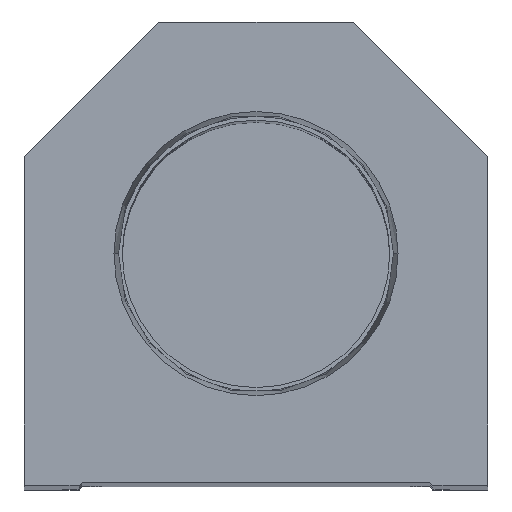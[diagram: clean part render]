
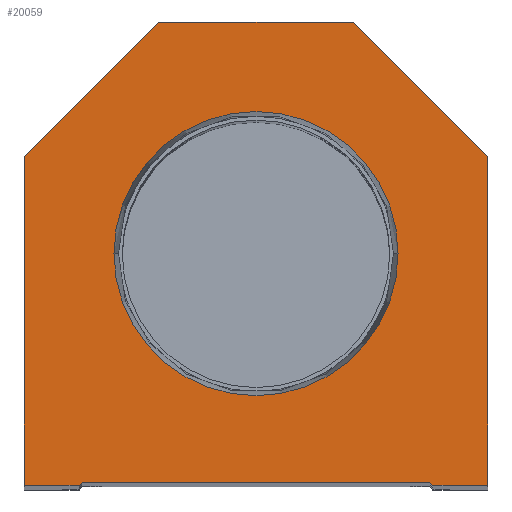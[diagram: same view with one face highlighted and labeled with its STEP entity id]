
A CAD part, top view. The second image highlights one B-rep face of the part: STEP entity #20059.
In plain terms, the highlighted planar face has unit normal (0, 0, 1).
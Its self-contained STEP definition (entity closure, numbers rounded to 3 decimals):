
#228 = DIRECTION ( 'NONE',  ( 0., -1., 0. ) ) ;
#269 = CARTESIAN_POINT ( 'NONE',  ( -23.374, 38.1, 0. ) ) ;
#346 = CARTESIAN_POINT ( 'NONE',  ( -14.55, 14.55, 0. ) ) ;
#510 = CARTESIAN_POINT ( 'NONE',  ( 0., 38.1, 0. ) ) ;
#600 = CARTESIAN_POINT ( 'NONE',  ( 16., 76.2, 0. ) ) ;
#742 = VERTEX_POINT ( 'NONE', #1373 ) ;
#1373 = CARTESIAN_POINT ( 'NONE',  ( -38.1, 0., 0. ) ) ;
#1434 = AXIS2_PLACEMENT_3D ( 'NONE', #12852, #4596, #6250 ) ;
#1501 = EDGE_CURVE ( 'NONE', #1897, #15367, #14960, .T. ) ;
#1615 = CARTESIAN_POINT ( 'NONE',  ( -38.1, 54.1, 0. ) ) ;
#1897 = VERTEX_POINT ( 'NONE', #7401 ) ;
#1934 = ORIENTED_EDGE ( 'NONE', *, *, #15874, .T. ) ;
#2012 = ORIENTED_EDGE ( 'NONE', *, *, #1501, .T. ) ;
#2140 = VERTEX_POINT ( 'NONE', #5736 ) ;
#2744 = CARTESIAN_POINT ( 'NONE',  ( 14.55, 14.55, 0. ) ) ;
#3085 = DIRECTION ( 'NONE',  ( 1., 0., 0. ) ) ;
#3134 = EDGE_CURVE ( 'NONE', #15367, #742, #20328, .T. ) ;
#3205 = LINE ( 'NONE', #19559, #19573 ) ;
#4256 = LINE ( 'NONE', #2744, #9173 ) ;
#4328 = CARTESIAN_POINT ( 'NONE',  ( 38.1, 54.1, 0. ) ) ;
#4366 = DIRECTION ( 'NONE',  ( 0.707, -0.707, 0. ) ) ;
#4411 = EDGE_CURVE ( 'NONE', #12330, #14954, #9045, .T. ) ;
#4449 = DIRECTION ( 'NONE',  ( -0.707, -0.707, 0. ) ) ;
#4596 = DIRECTION ( 'NONE',  ( 0., 0., 1. ) ) ;
#4881 = EDGE_CURVE ( 'NONE', #2140, #9098, #8464, .T. ) ;
#5430 = VERTEX_POINT ( 'NONE', #600 ) ;
#5736 = CARTESIAN_POINT ( 'NONE',  ( -29.1, 0., 0. ) ) ;
#6250 = DIRECTION ( 'NONE',  ( 1., 0., 0. ) ) ;
#6420 = VERTEX_POINT ( 'NONE', #18140 ) ;
#6510 = EDGE_CURVE ( 'NONE', #9098, #13124, #12154, .T. ) ;
#6540 = LINE ( 'NONE', #16494, #7899 ) ;
#6567 = VERTEX_POINT ( 'NONE', #7423 ) ;
#6573 = CARTESIAN_POINT ( 'NONE',  ( 0., 0., 0. ) ) ;
#6811 = ORIENTED_EDGE ( 'NONE', *, *, #11659, .T. ) ;
#6998 = CARTESIAN_POINT ( 'NONE',  ( -28.6, 0.5, 0. ) ) ;
#7003 = AXIS2_PLACEMENT_3D ( 'NONE', #510, #7301, #7094 ) ;
#7094 = DIRECTION ( 'NONE',  ( 1., 0., 0. ) ) ;
#7301 = DIRECTION ( 'NONE',  ( 0., 0., 1. ) ) ;
#7317 = ORIENTED_EDGE ( 'NONE', *, *, #4411, .F. ) ;
#7401 = CARTESIAN_POINT ( 'NONE',  ( -16., 76.2, 0. ) ) ;
#7423 = CARTESIAN_POINT ( 'NONE',  ( 38.1, 0., 0. ) ) ;
#7859 = DIRECTION ( 'NONE',  ( 0., 1., 0. ) ) ;
#7899 = VECTOR ( 'NONE', #7859, 1000. ) ;
#7913 = ORIENTED_EDGE ( 'NONE', *, *, #19484, .F. ) ;
#8188 = DIRECTION ( 'NONE',  ( -1., 0., 0. ) ) ;
#8235 = VECTOR ( 'NONE', #18542, 1000. ) ;
#8322 = DIRECTION ( 'NONE',  ( 1., 0., 0. ) ) ;
#8464 = LINE ( 'NONE', #346, #17438 ) ;
#8678 = VECTOR ( 'NONE', #228, 1000. ) ;
#8772 = VECTOR ( 'NONE', #20388, 1000. ) ;
#9045 = CIRCLE ( 'NONE', #7003, 23.374 ) ;
#9098 = VERTEX_POINT ( 'NONE', #18193 ) ;
#9173 = VECTOR ( 'NONE', #4366, 1000. ) ;
#9395 = ORIENTED_EDGE ( 'NONE', *, *, #3134, .T. ) ;
#9480 = EDGE_CURVE ( 'NONE', #5430, #1897, #9733, .T. ) ;
#9733 = LINE ( 'NONE', #16375, #10259 ) ;
#9845 = AXIS2_PLACEMENT_3D ( 'NONE', #6573, #19873, #8322 ) ;
#10259 = VECTOR ( 'NONE', #8188, 1000. ) ;
#10320 = ORIENTED_EDGE ( 'NONE', *, *, #9480, .T. ) ;
#10944 = EDGE_LOOP ( 'NONE', ( #12470, #11609, #19056, #6811, #16870, #1934, #18444, #10320, #2012, #9395 ) ) ;
#11387 = LINE ( 'NONE', #21503, #13166 ) ;
#11609 = ORIENTED_EDGE ( 'NONE', *, *, #4881, .T. ) ;
#11659 = EDGE_CURVE ( 'NONE', #13124, #6420, #4256, .T. ) ;
#11803 = EDGE_LOOP ( 'NONE', ( #7317, #7913 ) ) ;
#11926 = CARTESIAN_POINT ( 'NONE',  ( 38.1, 54.1, 0. ) ) ;
#12154 = LINE ( 'NONE', #6998, #8772 ) ;
#12330 = VERTEX_POINT ( 'NONE', #20740 ) ;
#12470 = ORIENTED_EDGE ( 'NONE', *, *, #15516, .T. ) ;
#12852 = CARTESIAN_POINT ( 'NONE',  ( 0., 38.1, 0. ) ) ;
#13124 = VERTEX_POINT ( 'NONE', #15865 ) ;
#13166 = VECTOR ( 'NONE', #3085, 1000. ) ;
#14116 = EDGE_CURVE ( 'NONE', #18680, #5430, #18237, .T. ) ;
#14954 = VERTEX_POINT ( 'NONE', #269 ) ;
#14960 = LINE ( 'NONE', #1615, #20083 ) ;
#15238 = CARTESIAN_POINT ( 'NONE',  ( -38.1, 0., 0. ) ) ;
#15352 = DIRECTION ( 'NONE',  ( 0.707, 0.707, 0. ) ) ;
#15367 = VERTEX_POINT ( 'NONE', #17103 ) ;
#15516 = EDGE_CURVE ( 'NONE', #742, #2140, #11387, .T. ) ;
#15865 = CARTESIAN_POINT ( 'NONE',  ( 28.6, 0.5, 0. ) ) ;
#15874 = EDGE_CURVE ( 'NONE', #6567, #18680, #6540, .T. ) ;
#16375 = CARTESIAN_POINT ( 'NONE',  ( 16., 76.2, 0. ) ) ;
#16437 = CIRCLE ( 'NONE', #1434, 23.374 ) ;
#16494 = CARTESIAN_POINT ( 'NONE',  ( 38.1, 0., 0. ) ) ;
#16526 = FACE_BOUND ( 'NONE', #11803, .T. ) ;
#16636 = PLANE ( 'NONE',  #9845 ) ;
#16870 = ORIENTED_EDGE ( 'NONE', *, *, #21211, .T. ) ;
#17103 = CARTESIAN_POINT ( 'NONE',  ( -38.1, 54.1, 0. ) ) ;
#17438 = VECTOR ( 'NONE', #15352, 1000. ) ;
#18140 = CARTESIAN_POINT ( 'NONE',  ( 29.1, 0., 0. ) ) ;
#18193 = CARTESIAN_POINT ( 'NONE',  ( -28.6, 0.5, 0. ) ) ;
#18237 = LINE ( 'NONE', #11926, #8235 ) ;
#18444 = ORIENTED_EDGE ( 'NONE', *, *, #14116, .T. ) ;
#18542 = DIRECTION ( 'NONE',  ( -0.707, 0.707, 0. ) ) ;
#18680 = VERTEX_POINT ( 'NONE', #4328 ) ;
#19056 = ORIENTED_EDGE ( 'NONE', *, *, #6510, .T. ) ;
#19484 = EDGE_CURVE ( 'NONE', #14954, #12330, #16437, .T. ) ;
#19559 = CARTESIAN_POINT ( 'NONE',  ( 28.6, 0., 0. ) ) ;
#19573 = VECTOR ( 'NONE', #21200, 1000. ) ;
#19873 = DIRECTION ( 'NONE',  ( 0., 0., 1. ) ) ;
#20059 = ADVANCED_FACE ( 'NONE', ( #16526, #21510 ), #16636, .T. ) ;
#20083 = VECTOR ( 'NONE', #4449, 1000. ) ;
#20328 = LINE ( 'NONE', #15238, #8678 ) ;
#20388 = DIRECTION ( 'NONE',  ( 1., 0., 0. ) ) ;
#20740 = CARTESIAN_POINT ( 'NONE',  ( 23.374, 38.1, 0. ) ) ;
#21200 = DIRECTION ( 'NONE',  ( 1., 0., 0. ) ) ;
#21211 = EDGE_CURVE ( 'NONE', #6420, #6567, #3205, .T. ) ;
#21503 = CARTESIAN_POINT ( 'NONE',  ( -28.6, 0., 0. ) ) ;
#21510 = FACE_OUTER_BOUND ( 'NONE', #10944, .T. ) ;
